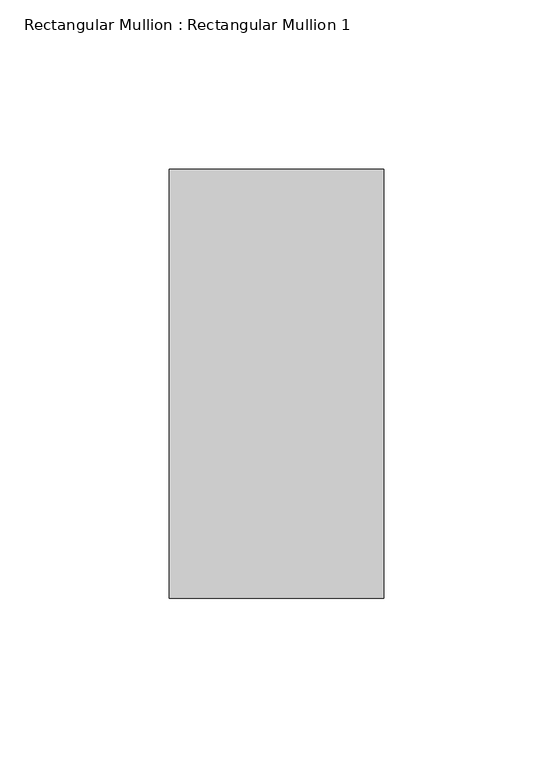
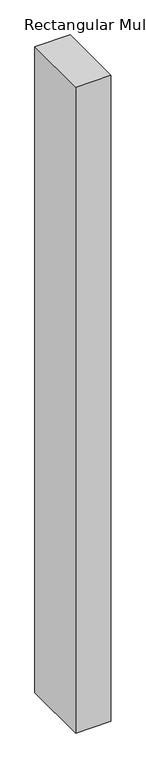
"""IFC4 building model written with IfcOpenShell, lengths in millimetres: member geometry, Rectangular Mullion : Rectangular Mullion 1."""

from ifc_helpers import new_model, si_unit, frame, origin, place, context, project, spatial, polyline, outline, extrude, source, transform, mapped, element, save


def rectangular_mullion_rectangular_mullion_1_0c9537f6(model_context):
    return source(origin(), model_context, "Body", "SweptSolid", [
        extrude(outline(polyline([(0.0, 63.5), (0.0, -63.5), (-63.5, -63.5), (-63.5, 63.5), (0.0, 63.5)])), frame((0.0, 0.0, -1229.2524417), z_axis=(0.0, 0.0, 1.0), x_axis=(1.0, 0.0, 0.0)), (0.0, 0.0, 1.0), 1229.2524417),
    ])


if __name__ == "__main__":
    model = new_model("IFC4")
    model_context = context("Model", 3, world=origin())
    ifc_project = project(units=[si_unit("LENGTHUNIT", "METRE", prefix="MILLI")], contexts=[model_context])
    site = spatial("IfcSite", under=ifc_project)
    building = spatial("IfcBuilding", under=site)
    placement = place(None, origin())
    rectangular_mullion_rectangular_mullion_1_shape = rectangular_mullion_rectangular_mullion_1_0c9537f6(model_context)
    element("IfcMember", 1, ObjectType="Rectangular Mullion : Rectangular Mullion 1", at=placement, inside=building, context=model_context, shape_type="MappedRepresentation", body=[
        mapped(rectangular_mullion_rectangular_mullion_1_shape, transform((0.0, 0.0, 0.0), x_axis=(1.0, 0.0, 0.0), y_axis=(0.0, 1.0, 0.0), z_axis=(0.0, 0.0, 1.0))),
    ])
    save(model, "model.ifc")
